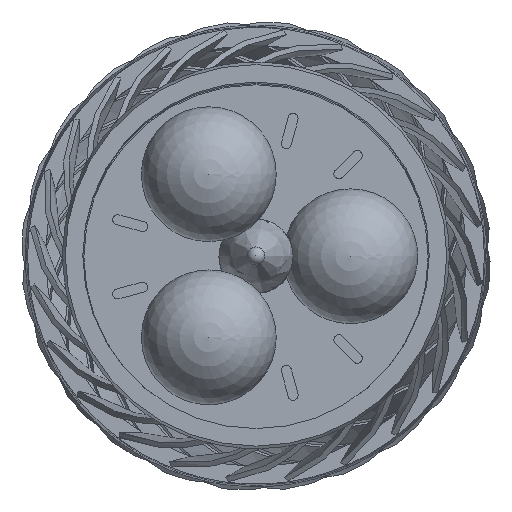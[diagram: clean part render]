
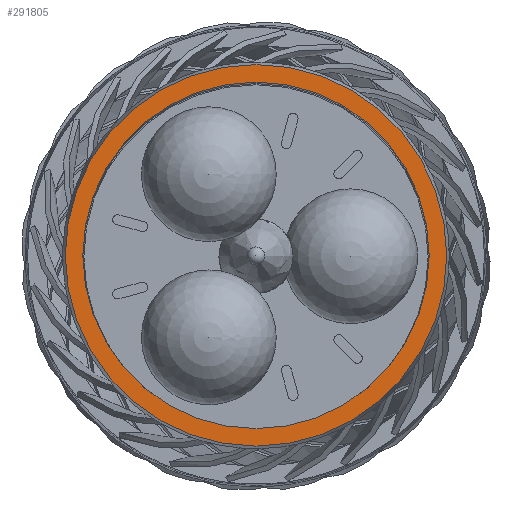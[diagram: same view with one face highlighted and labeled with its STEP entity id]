
A CAD part, top view. The second image highlights one B-rep face of the part: STEP entity #291805.
In plain terms, the highlighted planar face has unit normal (0, 0, 1).
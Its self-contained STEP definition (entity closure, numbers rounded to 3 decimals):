
#291514 = CONICAL_SURFACE('',#291515,86.027,0.16);
#291515 = AXIS2_PLACEMENT_3D('',#291516,#291517,#291518);
#291516 = CARTESIAN_POINT('',(0.,0.,422.));
#291517 = DIRECTION('',(-0.,-0.,-1.));
#291518 = DIRECTION('',(1.,0.,-0.));
#291629 = CONICAL_SURFACE('',#291630,77.1,0.16);
#291630 = AXIS2_PLACEMENT_3D('',#291631,#291632,#291633);
#291631 = CARTESIAN_POINT('',(0.,0.,429.));
#291632 = DIRECTION('',(-0.,-0.,-1.));
#291633 = DIRECTION('',(1.,0.,0.));
#291706 = VERTEX_POINT('',#291707);
#291707 = CARTESIAN_POINT('',(84.9,0.,429.));
#291728 = EDGE_CURVE('',#291706,#291706,#291729,.T.);
#291729 = SURFACE_CURVE('',#291730,(#291735,#291742),.PCURVE_S1.);
#291730 = CIRCLE('',#291731,84.9);
#291731 = AXIS2_PLACEMENT_3D('',#291732,#291733,#291734);
#291732 = CARTESIAN_POINT('',(0.,0.,429.));
#291733 = DIRECTION('',(0.,0.,1.));
#291734 = DIRECTION('',(1.,0.,-0.));
#291735 = PCURVE('',#291514,#291736);
#291736 = DEFINITIONAL_REPRESENTATION('',(#291737),#291741);
#291737 = LINE('',#291738,#291739);
#291738 = CARTESIAN_POINT('',(-0.,-7.));
#291739 = VECTOR('',#291740,1.);
#291740 = DIRECTION('',(-1.,-0.));
#291741 = ( GEOMETRIC_REPRESENTATION_CONTEXT(2) 
PARAMETRIC_REPRESENTATION_CONTEXT() REPRESENTATION_CONTEXT('2D SPACE',''
  ) );
#291742 = PCURVE('',#291743,#291748);
#291743 = PLANE('',#291744);
#291744 = AXIS2_PLACEMENT_3D('',#291745,#291746,#291747);
#291745 = CARTESIAN_POINT('',(0.,0.,429.));
#291746 = DIRECTION('',(0.,0.,1.));
#291747 = DIRECTION('',(1.,0.,-0.));
#291748 = DEFINITIONAL_REPRESENTATION('',(#291749),#291753);
#291749 = CIRCLE('',#291750,84.9);
#291750 = AXIS2_PLACEMENT_2D('',#291751,#291752);
#291751 = CARTESIAN_POINT('',(0.,0.));
#291752 = DIRECTION('',(1.,0.));
#291753 = ( GEOMETRIC_REPRESENTATION_CONTEXT(2) 
PARAMETRIC_REPRESENTATION_CONTEXT() REPRESENTATION_CONTEXT('2D SPACE',''
  ) );
#291759 = EDGE_CURVE('',#291760,#291760,#291762,.T.);
#291760 = VERTEX_POINT('',#291761);
#291761 = CARTESIAN_POINT('',(77.1,0.,429.));
#291762 = SURFACE_CURVE('',#291763,(#291768,#291775),.PCURVE_S1.);
#291763 = CIRCLE('',#291764,77.1);
#291764 = AXIS2_PLACEMENT_3D('',#291765,#291766,#291767);
#291765 = CARTESIAN_POINT('',(0.,0.,429.));
#291766 = DIRECTION('',(0.,0.,1.));
#291767 = DIRECTION('',(1.,0.,-0.));
#291768 = PCURVE('',#291629,#291769);
#291769 = DEFINITIONAL_REPRESENTATION('',(#291770),#291774);
#291770 = LINE('',#291771,#291772);
#291771 = CARTESIAN_POINT('',(-0.,0.));
#291772 = VECTOR('',#291773,1.);
#291773 = DIRECTION('',(-1.,0.));
#291774 = ( GEOMETRIC_REPRESENTATION_CONTEXT(2) 
PARAMETRIC_REPRESENTATION_CONTEXT() REPRESENTATION_CONTEXT('2D SPACE',''
  ) );
#291775 = PCURVE('',#291743,#291776);
#291776 = DEFINITIONAL_REPRESENTATION('',(#291777),#291781);
#291777 = CIRCLE('',#291778,77.1);
#291778 = AXIS2_PLACEMENT_2D('',#291779,#291780);
#291779 = CARTESIAN_POINT('',(0.,0.));
#291780 = DIRECTION('',(1.,0.));
#291781 = ( GEOMETRIC_REPRESENTATION_CONTEXT(2) 
PARAMETRIC_REPRESENTATION_CONTEXT() REPRESENTATION_CONTEXT('2D SPACE',''
  ) );
#291805 = ADVANCED_FACE('',(#291806,#291809),#291743,.T.);
#291806 = FACE_BOUND('',#291807,.T.);
#291807 = EDGE_LOOP('',(#291808));
#291808 = ORIENTED_EDGE('',*,*,#291728,.T.);
#291809 = FACE_BOUND('',#291810,.T.);
#291810 = EDGE_LOOP('',(#291811));
#291811 = ORIENTED_EDGE('',*,*,#291759,.F.);
